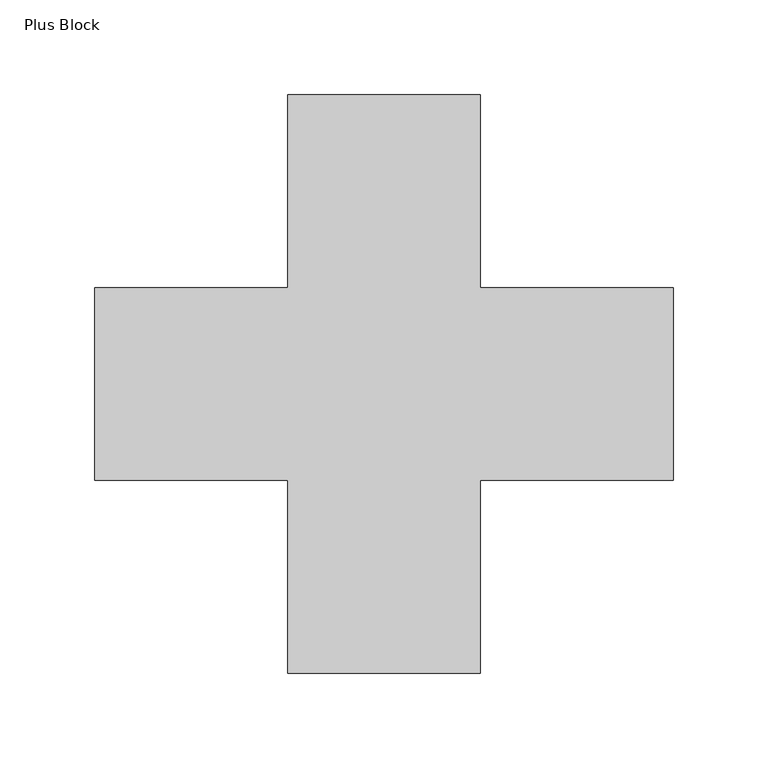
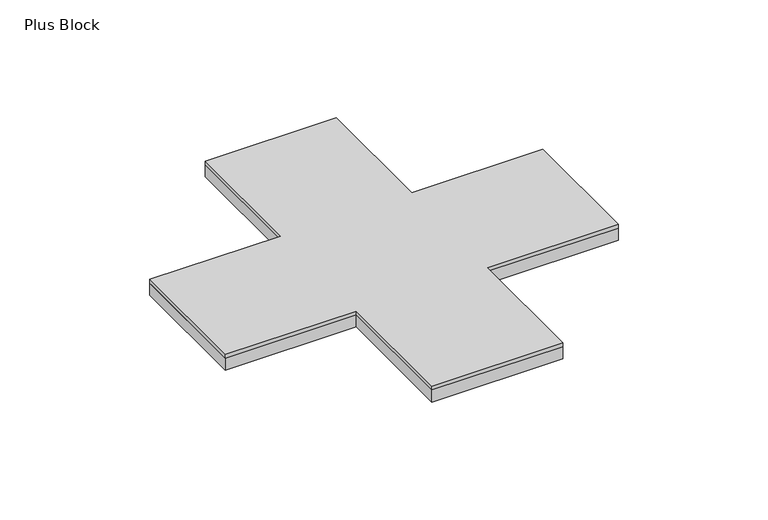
"""IFC4 building model written with IfcOpenShell, lengths in millimetres: proxy geometry, FilzFelt_Plus_Block : Plus Block."""

from ifc_helpers import new_model, si_unit, frame, origin, origin_with_axes, place, context, project, spatial, polyline, outline, extrude, source, transform, mapped, element, save


def plus_block_6a39ef65(model_context):
    return source(origin(), model_context, "Body", "SweptSolid", [
        extrude(outline(polyline([(50.8333333, 50.8333333), (152.5, 50.8333333), (152.5, -50.8333333), (50.8333333, -50.8333333), (50.8333333, -152.5), (-50.8333333, -152.5), (-50.8333333, -50.8333333), (-152.5, -50.8333333), (-152.5, 50.8333333), (-50.8333333, 50.8333333), (-50.8333333, 152.5), (50.8333333, 152.5), (50.8333333, 50.8333333)])), frame((0.0, 0.0, 10.0210937), z_axis=(0.0, 0.0, 1.0), x_axis=(1.0, 0.0, 0.0)), (0.0, 0.0, 1.0), 2.9765625),
        extrude(outline(polyline([(-152.5, -50.8333333), (-152.5, 50.8333333), (-50.8333333, 50.8333333), (-50.8333333, 152.5), (50.8333333, 152.5), (50.8333333, 50.8333333), (152.5, 50.8333333), (152.5, -50.8333333), (50.8333333, -50.8333333), (50.8333333, -152.5), (-50.8333333, -152.5), (-50.8333333, -50.8333333), (-152.5, -50.8333333)])), origin_with_axes(), (0.0, 0.0, 1.0), 10.0210938),
    ])


if __name__ == "__main__":
    model = new_model("IFC4")
    model_context = context("Model", 3, world=origin())
    ifc_project = project(units=[si_unit("LENGTHUNIT", "METRE", prefix="MILLI")], contexts=[model_context])
    site = spatial("IfcSite", under=ifc_project)
    building = spatial("IfcBuilding", under=site)
    placement = place(None, origin())
    plus_block_shape = plus_block_6a39ef65(model_context)
    element("IfcBuildingElementProxy", 1, Name="FilzFelt_Plus_Block : Plus Block", ObjectType="FilzFelt_Plus_Block : Plus Block", at=placement, inside=building, context=model_context, shape_type="MappedRepresentation", body=[
        mapped(plus_block_shape, transform((0.0, 0.0, 0.0), x_axis=(1.0, 0.0, 0.0), y_axis=(0.0, 1.0, 0.0), z_axis=(0.0, 0.0, 1.0))),
    ])
    save(model, "model.ifc")
